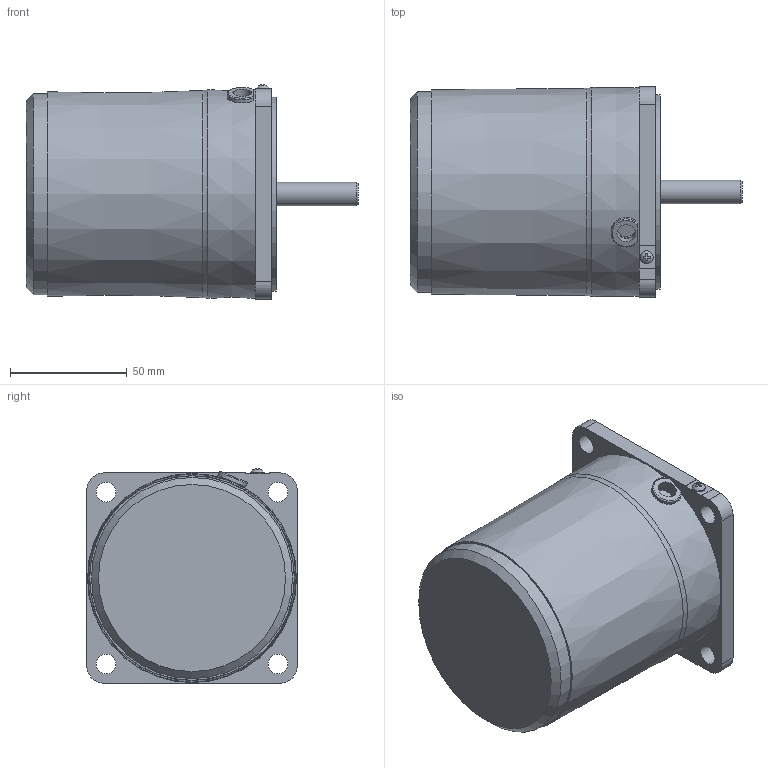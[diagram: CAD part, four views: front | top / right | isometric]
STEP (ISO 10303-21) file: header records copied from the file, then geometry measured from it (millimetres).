
FILE_DESCRIPTION(/* description */ (''),/* implementation_level */ '2;1');
FILE_NAME(/* name */ 'E:\도면작업\2016\0704) 미주향 SG 도면\3D MOTOR\SG9I40S_.stp',/* time_stamp */ '2016-07-22T13:49:39+09:00',/* author */ ('jy-jung'),/* organization */ (''),/* preprocessor_version */ 'ST-DEVELOPER v15.6',/* originating_system */ 'Autodesk Inventor 2015',/* authorisation */ '');
FILE_SCHEMA (('AUTOMOTIVE_DESIGN { 1 0 10303 214 3 1 1 }'));
Length unit declared in the file: millimetre
Products named in the file (1): 부품2
Bounding box: 142 x 90 x 91.76 mm (x, y, z)
Volume: 647807.2 mm3; surface area: 49499.1 mm2
Topology: 1 solids, 2 shells, 90 faces, 239 edges, 162 vertices
Faces by surface type: plane 56, cylinder 27, cone 4, torus 2, bspline 1
Full cylindrical faces by diameter (mm): 5.6 x1, 8 x1, 8.5 x4, 10 x2, 40 x1, 83 x1, 86 x1
Entity records: 2919 total; most frequent: CARTESIAN_POINT 605, DIRECTION 448, ORIENTED_EDGE 428, EDGE_CURVE 214, AXIS2_PLACEMENT_3D 163, VERTEX_POINT 154, EDGE_LOOP 126, LINE 122
